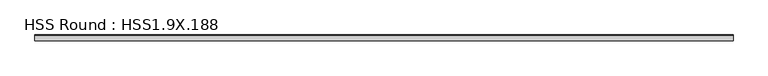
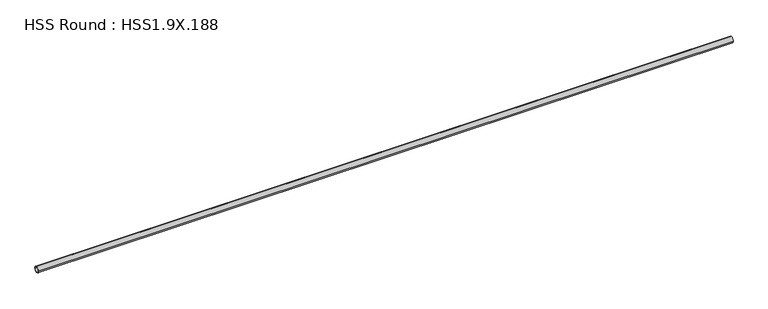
"""IFC4 building model written with IfcOpenShell, lengths in millimetres: member geometry, HSS Round : HSS1.9X.188."""

from ifc_helpers import new_model, si_unit, point, frame, origin, origin_2d, place, context, project, spatial, circle_curve, trimmed, segment, composite_curve, outline, extrude, source, transform, mapped, element, save


def hss_round_hss1_9x_188_fb8ceaad(model_context):
    return source(origin(), model_context, "Body", "SweptSolid", [
        extrude(outline(composite_curve([segment(trimmed(circle_curve(origin_2d(), 24.13), [point((-24.13, 0.0))], [point((24.13, 0.0))], False, "CARTESIAN"), True, "CONTINUOUS"), segment(trimmed(circle_curve(origin_2d(), 24.13), [point((24.13, 0.0))], [point((-24.13, 0.0))], False, "CARTESIAN"), True, "CONTINUOUS")], self_intersect=False), holes=[composite_curve([segment(trimmed(circle_curve(origin_2d(), 19.3548), [point((19.3548, 0.0))], [point((-19.3548, 0.0))], True, "CARTESIAN"), True, "CONTINUOUS"), segment(trimmed(circle_curve(origin_2d(), 19.3548), [point((-19.3548, 0.0))], [point((19.3548, 0.0))], True, "CARTESIAN"), True, "CONTINUOUS")], self_intersect=False)]), frame((-2861.3567896, 0.0, 0.0), z_axis=(1.0, 0.0, 0.0), x_axis=(0.0, 1.0, 0.0)), (0.0, 0.0, 1.0), 5707.8084211),
    ])


if __name__ == "__main__":
    model = new_model("IFC4")
    model_context = context("Model", 3, world=origin())
    ifc_project = project(units=[si_unit("LENGTHUNIT", "METRE", prefix="MILLI")], contexts=[model_context])
    site = spatial("IfcSite", under=ifc_project)
    building = spatial("IfcBuilding", under=site)
    placement = place(None, origin())
    hss_round_hss1_9x_188_shape = hss_round_hss1_9x_188_fb8ceaad(model_context)
    element("IfcMember", 1, ObjectType="HSS Round : HSS1.9X.188", at=placement, inside=building, context=model_context, shape_type="MappedRepresentation", body=[
        mapped(hss_round_hss1_9x_188_shape, transform((0.0, 0.0, 0.0), x_axis=(1.0, 0.0, 0.0), y_axis=(0.0, 1.0, 0.0), z_axis=(0.0, 0.0, 1.0))),
    ])
    save(model, "model.ifc")
